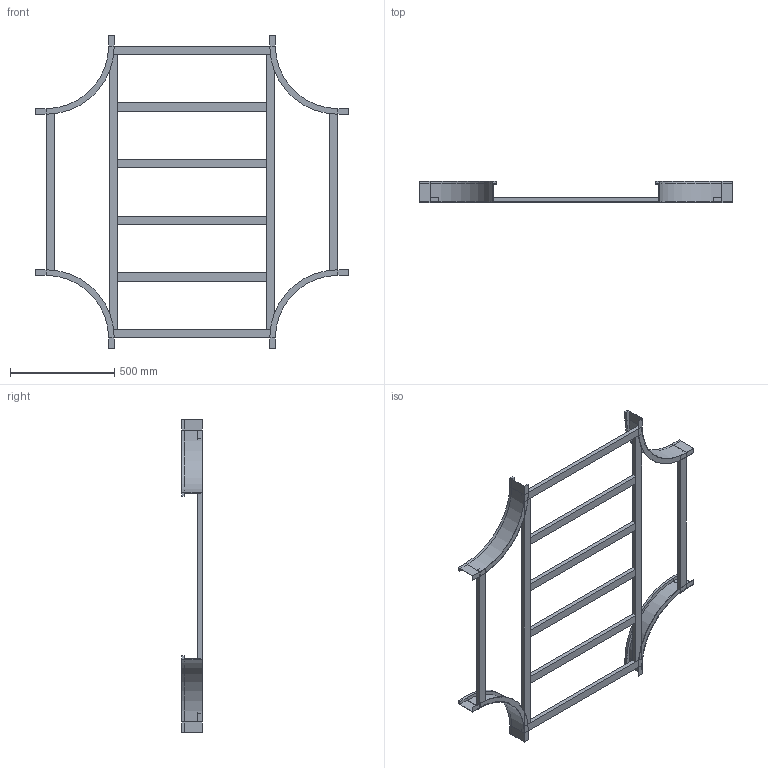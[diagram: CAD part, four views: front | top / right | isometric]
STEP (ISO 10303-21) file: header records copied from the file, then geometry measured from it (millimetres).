
FILE_DESCRIPTION (( 'STEP AP214' ), '1' );
FILE_NAME ('B2_17B3D800.step', '2025-02-21T15:55:52', ( '' ), ( '' ), 'SwSTEP 2.0', 'SolidWorks 2023', '' );
FILE_SCHEMA (( 'AUTOMOTIVE_DESIGN' ));
Length unit declared in the file: millimetre
Products named in the file (5): TRAVERSINO_800; TRAVERSINO_INTERMEDIO_R300+800; B2_LONGH.INTERNO 90°_H100_R300; B2_17B3D800; B2_TRAVERSINO_LONG._R300+800
Assembly tree (14 placements, depth 2):
  B2_17B3D800
    B2_LONGH.INTERNO 90°_H100_R300  x4
    TRAVERSINO_800  x4
    B2_TRAVERSINO_LONG._R300+800  x2
    TRAVERSINO_INTERMEDIO_R300+800  x4
Bounding box: 1500 x 100 x 1500 mm (x, y, z)
Volume: 8060246 mm3; surface area: 1733123.5 mm2
Topology: 14 solids, 14 shells, 164 faces, 344 edges, 208 vertices
Faces by surface type: plane 148, cylinder 16
Entity records: 1370 total; most frequent: DIRECTION 222, CARTESIAN_POINT 209, ORIENTED_EDGE 184, EDGE_CURVE 92, VECTOR 84, LINE 84, AXIS2_PLACEMENT_3D 69, VERTEX_POINT 56
